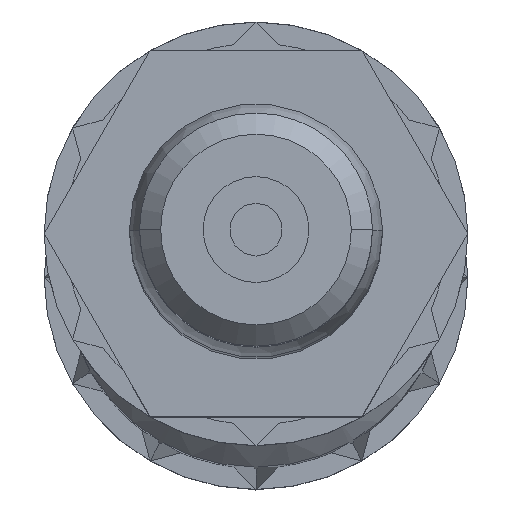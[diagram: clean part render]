
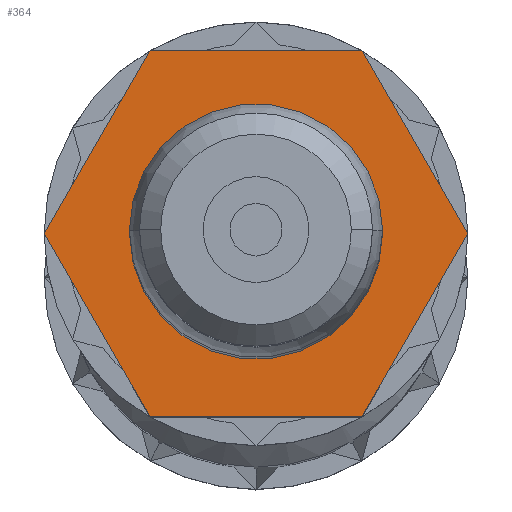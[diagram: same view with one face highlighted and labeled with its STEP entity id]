
A CAD part, top view. The second image highlights one B-rep face of the part: STEP entity #364.
In plain terms, the highlighted planar face has unit normal (0, 0, 1).
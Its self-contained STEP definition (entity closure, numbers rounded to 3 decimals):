
#80 = CARTESIAN_POINT ( 'NONE',  ( 1.1, 0., 151. ) ) ;
#118 = CARTESIAN_POINT ( 'NONE',  ( -1.1, 0., 151. ) ) ;
#124 = AXIS2_PLACEMENT_3D ( 'NONE', #2204, #2662, #422 ) ;
#167 = DIRECTION ( 'NONE',  ( 0., 0., -1. ) ) ;
#172 = VECTOR ( 'NONE', #901, 1000. ) ;
#210 = CARTESIAN_POINT ( 'NONE',  ( -2., 0., 151. ) ) ;
#233 = ORIENTED_EDGE ( 'NONE', *, *, #5026, .T. ) ;
#326 = CARTESIAN_POINT ( 'NONE',  ( 1.1, 0., 151. ) ) ;
#339 = CARTESIAN_POINT ( 'NONE',  ( -2., 0., 151. ) ) ;
#364 = ADVANCED_FACE ( 'NONE', ( #4656, #1890 ), #1361, .F. ) ;
#405 = ORIENTED_EDGE ( 'NONE', *, *, #1441, .T. ) ;
#422 = DIRECTION ( 'NONE',  ( -1., 0., 0. ) ) ;
#453 = DIRECTION ( 'NONE',  ( 0., 0., -1. ) ) ;
#482 = ORIENTED_EDGE ( 'NONE', *, *, #866, .T. ) ;
#485 = AXIS2_PLACEMENT_3D ( 'NONE', #80, #453, #1814 ) ;
#514 = CARTESIAN_POINT ( 'NONE',  ( 1., 1.732, 151. ) ) ;
#529 = LINE ( 'NONE', #1874, #172 ) ;
#681 = LINE ( 'NONE', #4776, #5138 ) ;
#866 = EDGE_CURVE ( 'NONE', #5375, #5781, #3241, .T. ) ;
#898 = ORIENTED_EDGE ( 'NONE', *, *, #4835, .T. ) ;
#901 = DIRECTION ( 'NONE',  ( -0.5, -0.866, 0. ) ) ;
#904 = CARTESIAN_POINT ( 'NONE',  ( 2., 0., 151. ) ) ;
#1123 = CARTESIAN_POINT ( 'NONE',  ( -1., -1.732, 151. ) ) ;
#1312 = VERTEX_POINT ( 'NONE', #4369 ) ;
#1361 = PLANE ( 'NONE',  #485 ) ;
#1441 = EDGE_CURVE ( 'NONE', #4237, #1312, #2736, .T. ) ;
#1461 = VECTOR ( 'NONE', #3183, 1000. ) ;
#1508 = CARTESIAN_POINT ( 'NONE',  ( 0., 0., 151. ) ) ;
#1587 = DIRECTION ( 'NONE',  ( 1., 0., 0. ) ) ;
#1613 = CARTESIAN_POINT ( 'NONE',  ( -1., -1.732, 151. ) ) ;
#1647 = EDGE_CURVE ( 'NONE', #3095, #4164, #4574, .T. ) ;
#1814 = DIRECTION ( 'NONE',  ( -1., 0., 0. ) ) ;
#1874 = CARTESIAN_POINT ( 'NONE',  ( -1., 1.732, 151. ) ) ;
#1890 = FACE_OUTER_BOUND ( 'NONE', #5645, .T. ) ;
#1973 = DIRECTION ( 'NONE',  ( -1., 0., 0. ) ) ;
#2061 = DIRECTION ( 'NONE',  ( 0.5, 0.866, 0. ) ) ;
#2164 = VECTOR ( 'NONE', #1587, 1000. ) ;
#2204 = CARTESIAN_POINT ( 'NONE',  ( 0., 0., 151. ) ) ;
#2401 = LINE ( 'NONE', #339, #2910 ) ;
#2490 = EDGE_CURVE ( 'NONE', #4164, #4881, #681, .T. ) ;
#2662 = DIRECTION ( 'NONE',  ( 0., 0., -1. ) ) ;
#2690 = LINE ( 'NONE', #904, #1461 ) ;
#2736 = LINE ( 'NONE', #514, #4858 ) ;
#2891 = EDGE_CURVE ( 'NONE', #1312, #4732, #529, .T. ) ;
#2910 = VECTOR ( 'NONE', #3925, 1000. ) ;
#2974 = EDGE_CURVE ( 'NONE', #5781, #5375, #3434, .T. ) ;
#3040 = CARTESIAN_POINT ( 'NONE',  ( 1., -1.732, 151. ) ) ;
#3095 = VERTEX_POINT ( 'NONE', #1123 ) ;
#3183 = DIRECTION ( 'NONE',  ( -0.5, 0.866, 0. ) ) ;
#3241 = CIRCLE ( 'NONE', #124, 1.1 ) ;
#3434 = CIRCLE ( 'NONE', #3786, 1.1 ) ;
#3786 = AXIS2_PLACEMENT_3D ( 'NONE', #1508, #167, #1973 ) ;
#3864 = ORIENTED_EDGE ( 'NONE', *, *, #2490, .T. ) ;
#3925 = DIRECTION ( 'NONE',  ( 0.5, -0.866, 0. ) ) ;
#4082 = ORIENTED_EDGE ( 'NONE', *, *, #1647, .T. ) ;
#4089 = EDGE_LOOP ( 'NONE', ( #5024, #482 ) ) ;
#4164 = VERTEX_POINT ( 'NONE', #3040 ) ;
#4237 = VERTEX_POINT ( 'NONE', #4511 ) ;
#4369 = CARTESIAN_POINT ( 'NONE',  ( -1., 1.732, 151. ) ) ;
#4511 = CARTESIAN_POINT ( 'NONE',  ( 1., 1.732, 151. ) ) ;
#4574 = LINE ( 'NONE', #1613, #2164 ) ;
#4652 = DIRECTION ( 'NONE',  ( -1., 0., 0. ) ) ;
#4656 = FACE_BOUND ( 'NONE', #4089, .T. ) ;
#4732 = VERTEX_POINT ( 'NONE', #210 ) ;
#4776 = CARTESIAN_POINT ( 'NONE',  ( 1., -1.732, 151. ) ) ;
#4835 = EDGE_CURVE ( 'NONE', #4732, #3095, #2401, .T. ) ;
#4858 = VECTOR ( 'NONE', #4652, 1000. ) ;
#4881 = VERTEX_POINT ( 'NONE', #5732 ) ;
#5024 = ORIENTED_EDGE ( 'NONE', *, *, #2974, .T. ) ;
#5026 = EDGE_CURVE ( 'NONE', #4881, #4237, #2690, .T. ) ;
#5138 = VECTOR ( 'NONE', #2061, 1000. ) ;
#5275 = ORIENTED_EDGE ( 'NONE', *, *, #2891, .T. ) ;
#5375 = VERTEX_POINT ( 'NONE', #326 ) ;
#5645 = EDGE_LOOP ( 'NONE', ( #3864, #233, #405, #5275, #898, #4082 ) ) ;
#5732 = CARTESIAN_POINT ( 'NONE',  ( 2., 0., 151. ) ) ;
#5781 = VERTEX_POINT ( 'NONE', #118 ) ;
